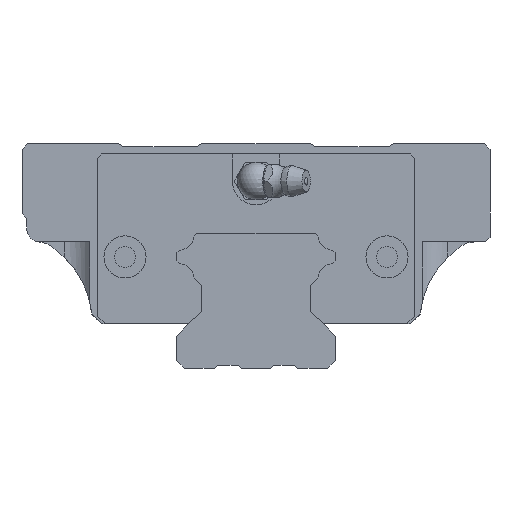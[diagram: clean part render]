
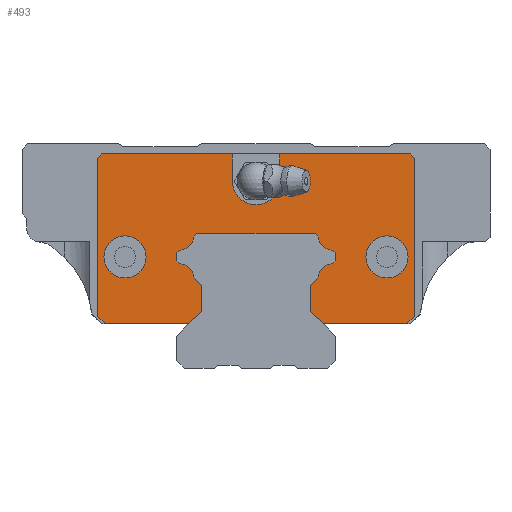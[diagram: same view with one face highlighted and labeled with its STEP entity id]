
A CAD part, front view. The second image highlights one B-rep face of the part: STEP entity #493.
In plain terms, the highlighted planar face has unit normal (0, -1, 0).
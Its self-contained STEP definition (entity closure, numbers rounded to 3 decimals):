
#206=FACE_BOUND('',#1035,.T.);
#207=FACE_BOUND('',#1036,.T.);
#316=CIRCLE('',#3890,3.5);
#318=CIRCLE('',#3896,3.5);
#320=CIRCLE('',#3902,3.5);
#322=CIRCLE('',#3908,3.5);
#333=CIRCLE('',#3952,4.5);
#334=CIRCLE('',#3953,4.5);
#335=CIRCLE('',#3954,5.05);
#493=ADVANCED_FACE('',(#206,#207,#832),#660,.F.);
#660=PLANE('',#3955);
#832=FACE_OUTER_BOUND('',#1037,.T.);
#1035=EDGE_LOOP('',(#1702));
#1036=EDGE_LOOP('',(#1703));
#1037=EDGE_LOOP('',(#1704,#1705,#1706,#1707,#1708,#1709,#1710,#1711,#1712,
#1713,#1714,#1715,#1716,#1717,#1718,#1719,#1720,#1721,#1722,#1723,#1724,
#1725,#1726,#1727,#1728,#1729,#1730,#1731,#1732,#1733,#1734,#1735));
#1702=ORIENTED_EDGE('',*,*,#2856,.F.);
#1703=ORIENTED_EDGE('',*,*,#2857,.F.);
#1704=ORIENTED_EDGE('',*,*,#2858,.F.);
#1705=ORIENTED_EDGE('',*,*,#2859,.F.);
#1706=ORIENTED_EDGE('',*,*,#2860,.T.);
#1707=ORIENTED_EDGE('',*,*,#2853,.F.);
#1708=ORIENTED_EDGE('',*,*,#2861,.F.);
#1709=ORIENTED_EDGE('',*,*,#2862,.F.);
#1710=ORIENTED_EDGE('',*,*,#2863,.T.);
#1711=ORIENTED_EDGE('',*,*,#2752,.T.);
#1712=ORIENTED_EDGE('',*,*,#2756,.T.);
#1713=ORIENTED_EDGE('',*,*,#2759,.F.);
#1714=ORIENTED_EDGE('',*,*,#2762,.F.);
#1715=ORIENTED_EDGE('',*,*,#2765,.T.);
#1716=ORIENTED_EDGE('',*,*,#2768,.F.);
#1717=ORIENTED_EDGE('',*,*,#2771,.F.);
#1718=ORIENTED_EDGE('',*,*,#2774,.T.);
#1719=ORIENTED_EDGE('',*,*,#2777,.T.);
#1720=ORIENTED_EDGE('',*,*,#2780,.T.);
#1721=ORIENTED_EDGE('',*,*,#2783,.T.);
#1722=ORIENTED_EDGE('',*,*,#2786,.F.);
#1723=ORIENTED_EDGE('',*,*,#2789,.T.);
#1724=ORIENTED_EDGE('',*,*,#2792,.F.);
#1725=ORIENTED_EDGE('',*,*,#2795,.T.);
#1726=ORIENTED_EDGE('',*,*,#2798,.T.);
#1727=ORIENTED_EDGE('',*,*,#2801,.T.);
#1728=ORIENTED_EDGE('',*,*,#2804,.T.);
#1729=ORIENTED_EDGE('',*,*,#2807,.T.);
#1730=ORIENTED_EDGE('',*,*,#2810,.F.);
#1731=ORIENTED_EDGE('',*,*,#2812,.F.);
#1732=ORIENTED_EDGE('',*,*,#2864,.T.);
#1733=ORIENTED_EDGE('',*,*,#2865,.F.);
#1734=ORIENTED_EDGE('',*,*,#2866,.F.);
#1735=ORIENTED_EDGE('',*,*,#2850,.F.);
#2346=VERTEX_POINT('',#5746);
#2347=VERTEX_POINT('',#5748);
#2349=VERTEX_POINT('',#5754);
#2351=VERTEX_POINT('',#5760);
#2353=VERTEX_POINT('',#5766);
#2355=VERTEX_POINT('',#5772);
#2357=VERTEX_POINT('',#5778);
#2359=VERTEX_POINT('',#5784);
#2361=VERTEX_POINT('',#5790);
#2363=VERTEX_POINT('',#5796);
#2365=VERTEX_POINT('',#5802);
#2367=VERTEX_POINT('',#5808);
#2369=VERTEX_POINT('',#5814);
#2371=VERTEX_POINT('',#5820);
#2373=VERTEX_POINT('',#5826);
#2375=VERTEX_POINT('',#5832);
#2377=VERTEX_POINT('',#5838);
#2379=VERTEX_POINT('',#5844);
#2381=VERTEX_POINT('',#5850);
#2383=VERTEX_POINT('',#5856);
#2385=VERTEX_POINT('',#5862);
#2386=VERTEX_POINT('',#5866);
#2403=VERTEX_POINT('',#5949);
#2404=VERTEX_POINT('',#5951);
#2405=VERTEX_POINT('',#5954);
#2406=VERTEX_POINT('',#5956);
#2408=VERTEX_POINT('',#5962);
#2409=VERTEX_POINT('',#5964);
#2410=VERTEX_POINT('',#5966);
#2411=VERTEX_POINT('',#5968);
#2412=VERTEX_POINT('',#5971);
#2413=VERTEX_POINT('',#5973);
#2414=VERTEX_POINT('',#5976);
#2415=VERTEX_POINT('',#5978);
#2752=EDGE_CURVE('',#2347,#2346,#3200,.T.);
#2756=EDGE_CURVE('',#2346,#2349,#3204,.T.);
#2759=EDGE_CURVE('',#2351,#2349,#3207,.T.);
#2762=EDGE_CURVE('',#2353,#2351,#3210,.T.);
#2765=EDGE_CURVE('',#2353,#2355,#316,.T.);
#2768=EDGE_CURVE('',#2357,#2355,#3214,.T.);
#2771=EDGE_CURVE('',#2359,#2357,#3217,.T.);
#2774=EDGE_CURVE('',#2359,#2361,#3220,.T.);
#2777=EDGE_CURVE('',#2361,#2363,#318,.T.);
#2780=EDGE_CURVE('',#2363,#2365,#3224,.T.);
#2783=EDGE_CURVE('',#2365,#2367,#3227,.T.);
#2786=EDGE_CURVE('',#2369,#2367,#3230,.T.);
#2789=EDGE_CURVE('',#2369,#2371,#320,.T.);
#2792=EDGE_CURVE('',#2373,#2371,#3234,.T.);
#2795=EDGE_CURVE('',#2373,#2375,#3237,.T.);
#2798=EDGE_CURVE('',#2375,#2377,#3240,.T.);
#2801=EDGE_CURVE('',#2377,#2379,#322,.T.);
#2804=EDGE_CURVE('',#2379,#2381,#3244,.T.);
#2807=EDGE_CURVE('',#2381,#2383,#3247,.T.);
#2810=EDGE_CURVE('',#2385,#2383,#3250,.T.);
#2812=EDGE_CURVE('',#2386,#2385,#3252,.T.);
#2850=EDGE_CURVE('',#2403,#2404,#3280,.T.);
#2853=EDGE_CURVE('',#2405,#2406,#3283,.T.);
#2856=EDGE_CURVE('',#2408,#2408,#333,.T.);
#2857=EDGE_CURVE('',#2409,#2409,#334,.T.);
#2858=EDGE_CURVE('',#2410,#2403,#3286,.T.);
#2859=EDGE_CURVE('',#2411,#2410,#335,.T.);
#2860=EDGE_CURVE('',#2411,#2406,#3287,.T.);
#2861=EDGE_CURVE('',#2412,#2405,#3288,.T.);
#2862=EDGE_CURVE('',#2413,#2412,#3289,.T.);
#2863=EDGE_CURVE('',#2413,#2347,#3290,.T.);
#2864=EDGE_CURVE('',#2386,#2414,#3291,.T.);
#2865=EDGE_CURVE('',#2415,#2414,#3292,.T.);
#2866=EDGE_CURVE('',#2404,#2415,#3293,.T.);
#3200=LINE('',#5747,#3558);
#3204=LINE('',#5755,#3562);
#3207=LINE('',#5761,#3565);
#3210=LINE('',#5767,#3568);
#3214=LINE('',#5779,#3572);
#3217=LINE('',#5785,#3575);
#3220=LINE('',#5791,#3578);
#3224=LINE('',#5803,#3582);
#3227=LINE('',#5809,#3585);
#3230=LINE('',#5815,#3588);
#3234=LINE('',#5827,#3592);
#3237=LINE('',#5833,#3595);
#3240=LINE('',#5839,#3598);
#3244=LINE('',#5851,#3602);
#3247=LINE('',#5857,#3605);
#3250=LINE('',#5863,#3608);
#3252=LINE('',#5867,#3610);
#3280=LINE('',#5950,#3638);
#3283=LINE('',#5955,#3641);
#3286=LINE('',#5965,#3644);
#3287=LINE('',#5969,#3645);
#3288=LINE('',#5970,#3646);
#3289=LINE('',#5972,#3647);
#3290=LINE('',#5974,#3648);
#3291=LINE('',#5975,#3649);
#3292=LINE('',#5977,#3650);
#3293=LINE('',#5979,#3651);
#3558=VECTOR('',#4446,1.);
#3562=VECTOR('',#4452,1.);
#3565=VECTOR('',#4457,1.);
#3568=VECTOR('',#4462,1.);
#3572=VECTOR('',#4474,1.);
#3575=VECTOR('',#4479,1.);
#3578=VECTOR('',#4484,1.);
#3582=VECTOR('',#4496,1.);
#3585=VECTOR('',#4501,1.);
#3588=VECTOR('',#4506,1.);
#3592=VECTOR('',#4518,1.);
#3595=VECTOR('',#4523,1.);
#3598=VECTOR('',#4528,1.);
#3602=VECTOR('',#4540,1.);
#3605=VECTOR('',#4545,1.);
#3608=VECTOR('',#4550,1.);
#3610=VECTOR('',#4554,1.);
#3638=VECTOR('',#4658,1.);
#3641=VECTOR('',#4661,1.);
#3644=VECTOR('',#4670,1.);
#3645=VECTOR('',#4673,1.);
#3646=VECTOR('',#4674,1.);
#3647=VECTOR('',#4675,1.);
#3648=VECTOR('',#4676,1.);
#3649=VECTOR('',#4677,1.);
#3650=VECTOR('',#4678,1.);
#3651=VECTOR('',#4679,1.);
#3890=AXIS2_PLACEMENT_3D('',#5773,#4468,#4469);
#3896=AXIS2_PLACEMENT_3D('',#5797,#4490,#4491);
#3902=AXIS2_PLACEMENT_3D('',#5821,#4512,#4513);
#3908=AXIS2_PLACEMENT_3D('',#5845,#4534,#4535);
#3952=AXIS2_PLACEMENT_3D('',#5961,#4666,#4667);
#3953=AXIS2_PLACEMENT_3D('',#5963,#4668,#4669);
#3954=AXIS2_PLACEMENT_3D('',#5967,#4671,#4672);
#3955=AXIS2_PLACEMENT_3D('',#5980,#4680,#4681);
#4446=DIRECTION('',(1.,0.,0.));
#4452=DIRECTION('',(0.707,0.,0.707));
#4457=DIRECTION('',(0.,0.,-1.));
#4462=DIRECTION('',(0.707,0.,-0.707));
#4468=DIRECTION('',(0.,-1.,0.));
#4469=DIRECTION('',(1.,0.,0.));
#4474=DIRECTION('',(0.707,0.,-0.707));
#4479=DIRECTION('',(0.,0.,-1.));
#4484=DIRECTION('',(0.707,0.,0.707));
#4490=DIRECTION('',(0.,-1.,0.));
#4491=DIRECTION('',(1.,0.,0.));
#4496=DIRECTION('',(0.707,0.,0.707));
#4501=DIRECTION('',(1.,0.,0.));
#4506=DIRECTION('',(-0.707,0.,0.707));
#4512=DIRECTION('',(0.,-1.,0.));
#4513=DIRECTION('',(1.,0.,0.));
#4518=DIRECTION('',(-0.707,0.,0.707));
#4523=DIRECTION('',(0.,0.,-1.));
#4528=DIRECTION('',(-0.707,0.,-0.707));
#4534=DIRECTION('',(0.,-1.,0.));
#4535=DIRECTION('',(1.,0.,0.));
#4540=DIRECTION('',(-0.707,0.,-0.707));
#4545=DIRECTION('',(0.,0.,-1.));
#4550=DIRECTION('',(-0.707,0.,0.707));
#4554=DIRECTION('',(-1.,0.,0.));
#4658=DIRECTION('',(1.,0.,0.));
#4661=DIRECTION('',(1.,0.,0.));
#4666=DIRECTION('',(0.,-1.,0.));
#4667=DIRECTION('',(0.,0.,-1.));
#4668=DIRECTION('',(0.,-1.,0.));
#4669=DIRECTION('',(0.,0.,-1.));
#4670=DIRECTION('',(0.,0.,1.));
#4671=DIRECTION('',(0.,-1.,0.));
#4672=DIRECTION('',(1.,0.,0.));
#4673=DIRECTION('',(0.,0.,1.));
#4674=DIRECTION('',(0.707,0.,0.707));
#4675=DIRECTION('',(0.,0.,1.));
#4676=DIRECTION('',(0.707,0.,-0.707));
#4677=DIRECTION('',(0.707,0.,0.707));
#4678=DIRECTION('',(0.,0.,-1.));
#4679=DIRECTION('',(0.707,0.,-0.707));
#4680=DIRECTION('',(0.,1.,0.));
#4681=DIRECTION('',(0.,0.,-1.));
#5746=CARTESIAN_POINT('',(-14.359,-86.4,-40.5));
#5747=CARTESIAN_POINT('',(-32.218,-86.4,-40.5));
#5748=CARTESIAN_POINT('',(-32.218,-86.4,-40.5));
#5754=CARTESIAN_POINT('',(-11.7,-86.4,-37.841));
#5755=CARTESIAN_POINT('',(-14.359,-86.4,-40.5));
#5760=CARTESIAN_POINT('',(-11.7,-86.4,-32.259));
#5761=CARTESIAN_POINT('',(-11.7,-86.4,-32.259));
#5766=CARTESIAN_POINT('',(-13.204,-86.4,-30.754));
#5767=CARTESIAN_POINT('',(-13.204,-86.4,-30.754));
#5772=CARTESIAN_POINT('',(-16.354,-86.4,-27.604));
#5773=CARTESIAN_POINT('',(-16.688,-86.4,-31.088));
#5778=CARTESIAN_POINT('',(-16.9,-86.4,-27.059));
#5779=CARTESIAN_POINT('',(-16.9,-86.4,-27.059));
#5784=CARTESIAN_POINT('',(-16.9,-86.4,-25.341));
#5785=CARTESIAN_POINT('',(-16.9,-86.4,-25.341));
#5790=CARTESIAN_POINT('',(-16.354,-86.4,-24.796));
#5791=CARTESIAN_POINT('',(-16.9,-86.4,-25.341));
#5796=CARTESIAN_POINT('',(-13.204,-86.4,-21.646));
#5797=CARTESIAN_POINT('',(-16.688,-86.4,-21.312));
#5802=CARTESIAN_POINT('',(-12.659,-86.4,-21.1));
#5803=CARTESIAN_POINT('',(-13.204,-86.4,-21.646));
#5808=CARTESIAN_POINT('',(12.659,-86.4,-21.1));
#5809=CARTESIAN_POINT('',(-12.659,-86.4,-21.1));
#5814=CARTESIAN_POINT('',(13.204,-86.4,-21.646));
#5815=CARTESIAN_POINT('',(13.204,-86.4,-21.646));
#5820=CARTESIAN_POINT('',(16.354,-86.4,-24.796));
#5821=CARTESIAN_POINT('',(16.688,-86.4,-21.312));
#5826=CARTESIAN_POINT('',(16.9,-86.4,-25.341));
#5827=CARTESIAN_POINT('',(16.9,-86.4,-25.341));
#5832=CARTESIAN_POINT('',(16.9,-86.4,-27.059));
#5833=CARTESIAN_POINT('',(16.9,-86.4,-25.341));
#5838=CARTESIAN_POINT('',(16.354,-86.4,-27.604));
#5839=CARTESIAN_POINT('',(16.9,-86.4,-27.059));
#5844=CARTESIAN_POINT('',(13.204,-86.4,-30.754));
#5845=CARTESIAN_POINT('',(16.688,-86.4,-31.088));
#5850=CARTESIAN_POINT('',(11.7,-86.4,-32.259));
#5851=CARTESIAN_POINT('',(13.204,-86.4,-30.754));
#5856=CARTESIAN_POINT('',(11.7,-86.4,-37.841));
#5857=CARTESIAN_POINT('',(11.7,-86.4,-32.259));
#5862=CARTESIAN_POINT('',(14.359,-86.4,-40.5));
#5863=CARTESIAN_POINT('',(14.359,-86.4,-40.5));
#5866=CARTESIAN_POINT('',(32.217,-86.4,-40.5));
#5867=CARTESIAN_POINT('',(32.217,-86.4,-40.5));
#5949=CARTESIAN_POINT('',(5.05,-86.4,-4.2));
#5950=CARTESIAN_POINT('',(-32.917,-86.4,-4.2));
#5951=CARTESIAN_POINT('',(32.917,-86.4,-4.2));
#5954=CARTESIAN_POINT('',(-32.917,-86.4,-4.2));
#5955=CARTESIAN_POINT('',(-32.917,-86.4,-4.2));
#5956=CARTESIAN_POINT('',(-5.05,-86.4,-4.2));
#5961=CARTESIAN_POINT('',(-28.,-86.4,-26.2));
#5962=CARTESIAN_POINT('',(-28.,-86.4,-30.7));
#5963=CARTESIAN_POINT('',(28.,-86.4,-26.2));
#5964=CARTESIAN_POINT('',(28.,-86.4,-30.7));
#5965=CARTESIAN_POINT('',(5.05,-86.4,-10.));
#5966=CARTESIAN_POINT('',(5.05,-86.4,-10.));
#5967=CARTESIAN_POINT('',(0.,-86.4,-10.));
#5968=CARTESIAN_POINT('',(-5.05,-86.4,-10.));
#5969=CARTESIAN_POINT('',(-5.05,-86.4,-10.));
#5970=CARTESIAN_POINT('',(-33.8,-86.4,-5.083));
#5971=CARTESIAN_POINT('',(-33.8,-86.4,-5.083));
#5972=CARTESIAN_POINT('',(-33.8,-86.4,-38.918));
#5973=CARTESIAN_POINT('',(-33.8,-86.4,-38.918));
#5974=CARTESIAN_POINT('',(-33.8,-86.4,-38.918));
#5975=CARTESIAN_POINT('',(32.217,-86.4,-40.5));
#5976=CARTESIAN_POINT('',(33.8,-86.4,-38.917));
#5977=CARTESIAN_POINT('',(33.8,-86.4,-5.083));
#5978=CARTESIAN_POINT('',(33.8,-86.4,-5.083));
#5979=CARTESIAN_POINT('',(32.917,-86.4,-4.2));
#5980=CARTESIAN_POINT('',(16.688,-86.4,-31.088));
